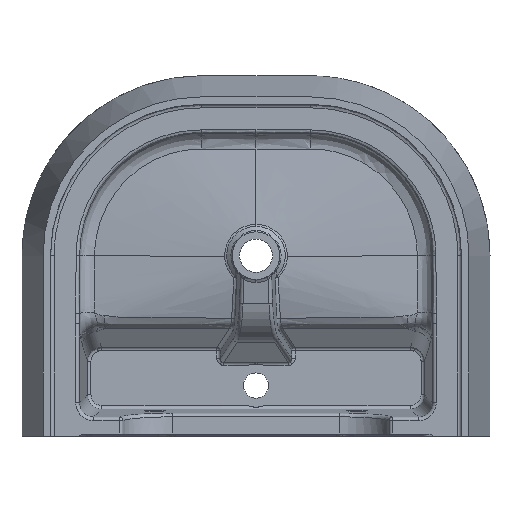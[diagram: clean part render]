
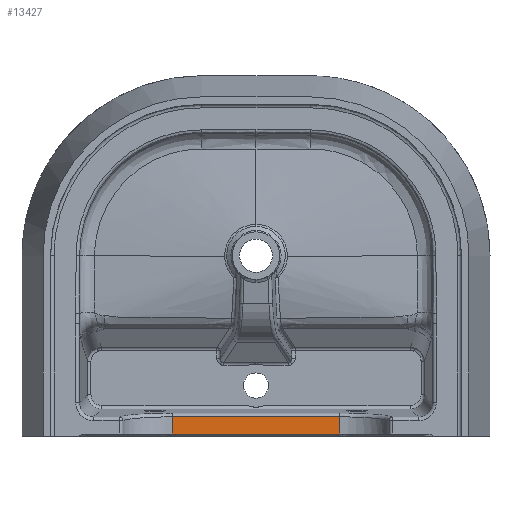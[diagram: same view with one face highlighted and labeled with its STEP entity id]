
A CAD part, front view. The second image highlights one B-rep face of the part: STEP entity #13427.
In plain terms, the highlighted planar face has unit normal (0, -1, 0).
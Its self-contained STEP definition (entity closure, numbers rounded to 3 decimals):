
#481 = ORIENTED_EDGE ( 'NONE', *, *, #8748, .F. ) ;
#2395 = VECTOR ( 'NONE', #8481, 1000. ) ;
#3308 = LINE ( 'NONE', #6791, #2395 ) ;
#4158 = DIRECTION ( 'NONE',  ( 0., 1., 0. ) ) ;
#4557 = LINE ( 'NONE', #20080, #19952 ) ;
#5064 = ORIENTED_EDGE ( 'NONE', *, *, #8905, .F. ) ;
#6676 = AXIS2_PLACEMENT_3D ( 'NONE', #11228, #4158, #18208 ) ;
#6791 = CARTESIAN_POINT ( 'NONE',  ( -135., -85., -247. ) ) ;
#8166 = DIRECTION ( 'NONE',  ( 0., 0., -1. ) ) ;
#8481 = DIRECTION ( 'NONE',  ( -1., 0., 0. ) ) ;
#8519 = VERTEX_POINT ( 'NONE', #22050 ) ;
#8748 = EDGE_CURVE ( 'NONE', #9858, #18532, #4557, .T. ) ;
#8905 = EDGE_CURVE ( 'NONE', #9158, #9858, #12422, .T. ) ;
#8972 = EDGE_LOOP ( 'NONE', ( #19254, #481, #5064, #20540 ) ) ;
#9158 = VERTEX_POINT ( 'NONE', #20798 ) ;
#9858 = VERTEX_POINT ( 'NONE', #18978 ) ;
#9955 = DIRECTION ( 'NONE',  ( 1., 0., 0. ) ) ;
#11164 = CARTESIAN_POINT ( 'NONE',  ( -115.718, -85., 250.012 ) ) ;
#11228 = CARTESIAN_POINT ( 'NONE',  ( 0., -85., 250.012 ) ) ;
#11704 = VECTOR ( 'NONE', #8166, 1000. ) ;
#12049 = EDGE_CURVE ( 'NONE', #18532, #8519, #18173, .T. ) ;
#12211 = EDGE_CURVE ( 'NONE', #8519, #9158, #3308, .T. ) ;
#12422 = LINE ( 'NONE', #11164, #21747 ) ;
#13427 = ADVANCED_FACE ( 'NONE', ( #20008 ), #14501, .F. ) ;
#14501 = PLANE ( 'NONE',  #6676 ) ;
#15893 = DIRECTION ( 'NONE',  ( 0., 0., 1. ) ) ;
#16820 = CARTESIAN_POINT ( 'NONE',  ( 115.718, -85., 250.012 ) ) ;
#18173 = LINE ( 'NONE', #16820, #11704 ) ;
#18208 = DIRECTION ( 'NONE',  ( 0., 0., 1. ) ) ;
#18532 = VERTEX_POINT ( 'NONE', #18658 ) ;
#18658 = CARTESIAN_POINT ( 'NONE',  ( 115.718, -85., -223.27 ) ) ;
#18978 = CARTESIAN_POINT ( 'NONE',  ( -115.718, -85., -223.27 ) ) ;
#19254 = ORIENTED_EDGE ( 'NONE', *, *, #12049, .F. ) ;
#19952 = VECTOR ( 'NONE', #9955, 1000. ) ;
#20008 = FACE_OUTER_BOUND ( 'NONE', #8972, .T. ) ;
#20080 = CARTESIAN_POINT ( 'NONE',  ( 0., -85., -223.27 ) ) ;
#20540 = ORIENTED_EDGE ( 'NONE', *, *, #12211, .F. ) ;
#20798 = CARTESIAN_POINT ( 'NONE',  ( -115.718, -85., -247. ) ) ;
#21747 = VECTOR ( 'NONE', #15893, 1000. ) ;
#22050 = CARTESIAN_POINT ( 'NONE',  ( 115.718, -85., -247. ) ) ;
